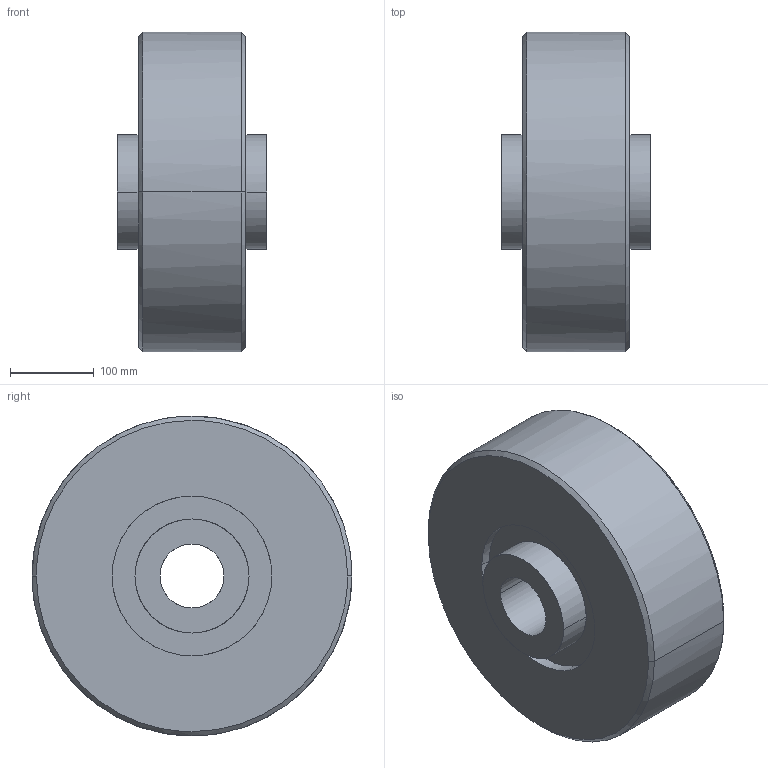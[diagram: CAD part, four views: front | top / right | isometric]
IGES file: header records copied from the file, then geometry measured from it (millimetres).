
Global section: native system: Kubotek KeyCreator; preprocessor: KCM Version 1.1.1442.0; author: KeyCreator User; organization: Self; date: 20170712.055940; units: inch
Bounding box: 177.8 x 381 x 381 mm (x, y, z)
Surface area: 454173.2 mm2 (no closed solid volume)
Topology: 0 solids, 0 shells, 22 faces, 144 edges, 144 vertices
Faces by surface type: bspline 22
